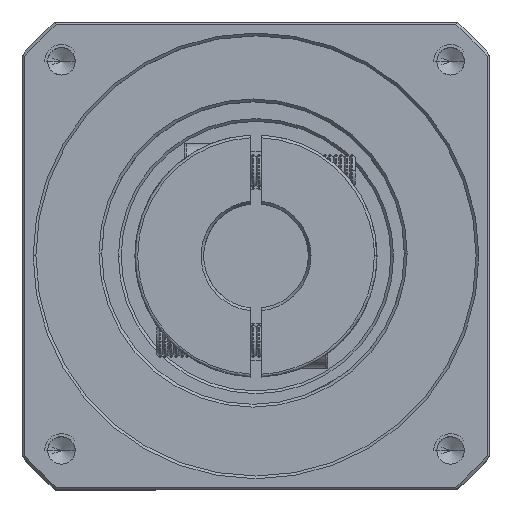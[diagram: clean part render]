
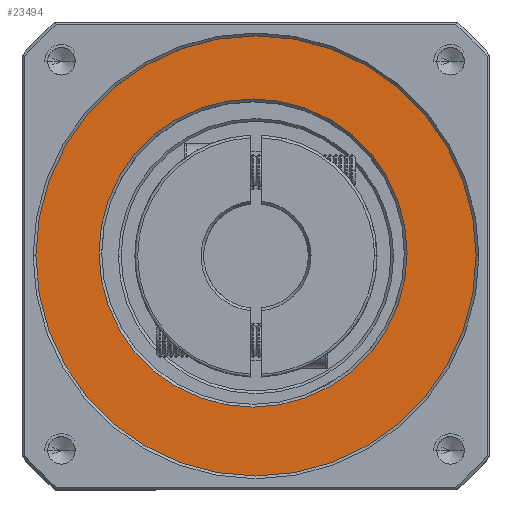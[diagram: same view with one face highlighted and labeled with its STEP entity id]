
A CAD part, top view. The second image highlights one B-rep face of the part: STEP entity #23494.
In plain terms, the highlighted planar face has unit normal (0, 0, 1).
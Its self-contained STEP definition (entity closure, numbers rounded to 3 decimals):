
#5406 = CARTESIAN_POINT ( 'NONE',  ( -65.609, 68.787, -61.843 ) ) ;
#9100 = CARTESIAN_POINT ( 'NONE',  ( 2.933, 68.253, -61.843 ) ) ;
#10963 = ORIENTED_EDGE ( 'NONE', *, *, #31472, .T. ) ;
#13126 = AXIS2_PLACEMENT_3D ( 'NONE', #29523, #98364, #39407 ) ;
#18423 = VERTEX_POINT ( 'NONE', #74580 ) ;
#20453 = CARTESIAN_POINT ( 'NONE',  ( -37.609, 68.787, -61.843 ) ) ;
#23282 = FACE_OUTER_BOUND ( 'NONE', #29345, .T. ) ;
#23494 = ADVANCED_FACE ( 'NONE', ( #23282, #98697 ), #58756, .T. ) ;
#23844 = AXIS2_PLACEMENT_3D ( 'NONE', #35336, #104156, #45182 ) ;
#29345 = EDGE_LOOP ( 'NONE', ( #10963, #94686 ) ) ;
#29523 = CARTESIAN_POINT ( 'NONE',  ( -37.067, 68.253, -61.843 ) ) ;
#30289 = DIRECTION ( 'NONE',  ( 1., 0., 0. ) ) ;
#31472 = EDGE_CURVE ( 'NONE', #117257, #100039, #101127, .T. ) ;
#35336 = CARTESIAN_POINT ( 'NONE',  ( -37.067, 68.253, -61.843 ) ) ;
#38526 = DIRECTION ( 'NONE',  ( 0., 0., 1. ) ) ;
#39407 = DIRECTION ( 'NONE',  ( 1., 0., 0. ) ) ;
#41253 = EDGE_CURVE ( 'NONE', #44606, #18423, #70141, .T. ) ;
#44214 = CARTESIAN_POINT ( 'NONE',  ( -37.609, 68.787, -61.843 ) ) ;
#44606 = VERTEX_POINT ( 'NONE', #5406 ) ;
#45182 = DIRECTION ( 'NONE',  ( 1., 0., 0. ) ) ;
#48365 = AXIS2_PLACEMENT_3D ( 'NONE', #97479, #38526, #107382 ) ;
#54133 = DIRECTION ( 'NONE',  ( 1., 0., 0. ) ) ;
#55752 = EDGE_CURVE ( 'NONE', #18423, #44606, #64202, .T. ) ;
#57613 = ORIENTED_EDGE ( 'NONE', *, *, #41253, .T. ) ;
#58756 = PLANE ( 'NONE',  #13126 ) ;
#64202 = CIRCLE ( 'NONE', #112237, 28. ) ;
#70141 = CIRCLE ( 'NONE', #94604, 28. ) ;
#71803 = CARTESIAN_POINT ( 'NONE',  ( -77.067, 68.253, -61.843 ) ) ;
#74580 = CARTESIAN_POINT ( 'NONE',  ( -9.609, 68.787, -61.843 ) ) ;
#89262 = DIRECTION ( 'NONE',  ( 0., 0., -1. ) ) ;
#89759 = EDGE_CURVE ( 'NONE', #100039, #117257, #105967, .T. ) ;
#90568 = EDGE_LOOP ( 'NONE', ( #109705, #57613 ) ) ;
#94604 = AXIS2_PLACEMENT_3D ( 'NONE', #44214, #113029, #54133 ) ;
#94686 = ORIENTED_EDGE ( 'NONE', *, *, #89759, .T. ) ;
#97479 = CARTESIAN_POINT ( 'NONE',  ( -37.067, 68.253, -61.843 ) ) ;
#98364 = DIRECTION ( 'NONE',  ( 0., 0., 1. ) ) ;
#98697 = FACE_BOUND ( 'NONE', #90568, .T. ) ;
#100039 = VERTEX_POINT ( 'NONE', #71803 ) ;
#101127 = CIRCLE ( 'NONE', #48365, 40. ) ;
#104156 = DIRECTION ( 'NONE',  ( 0., 0., 1. ) ) ;
#105967 = CIRCLE ( 'NONE', #23844, 40. ) ;
#107382 = DIRECTION ( 'NONE',  ( 1., 0., 0. ) ) ;
#109705 = ORIENTED_EDGE ( 'NONE', *, *, #55752, .T. ) ;
#112237 = AXIS2_PLACEMENT_3D ( 'NONE', #20453, #89262, #30289 ) ;
#113029 = DIRECTION ( 'NONE',  ( 0., 0., -1. ) ) ;
#117257 = VERTEX_POINT ( 'NONE', #9100 ) ;
